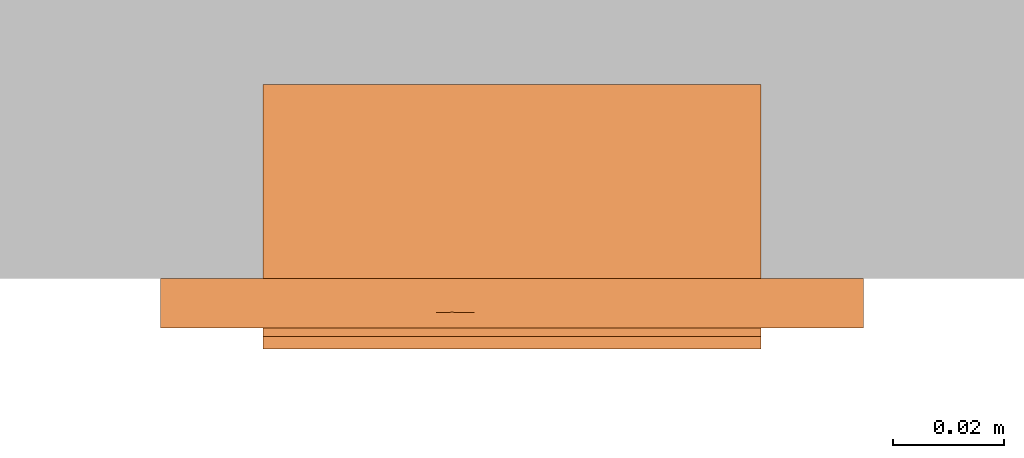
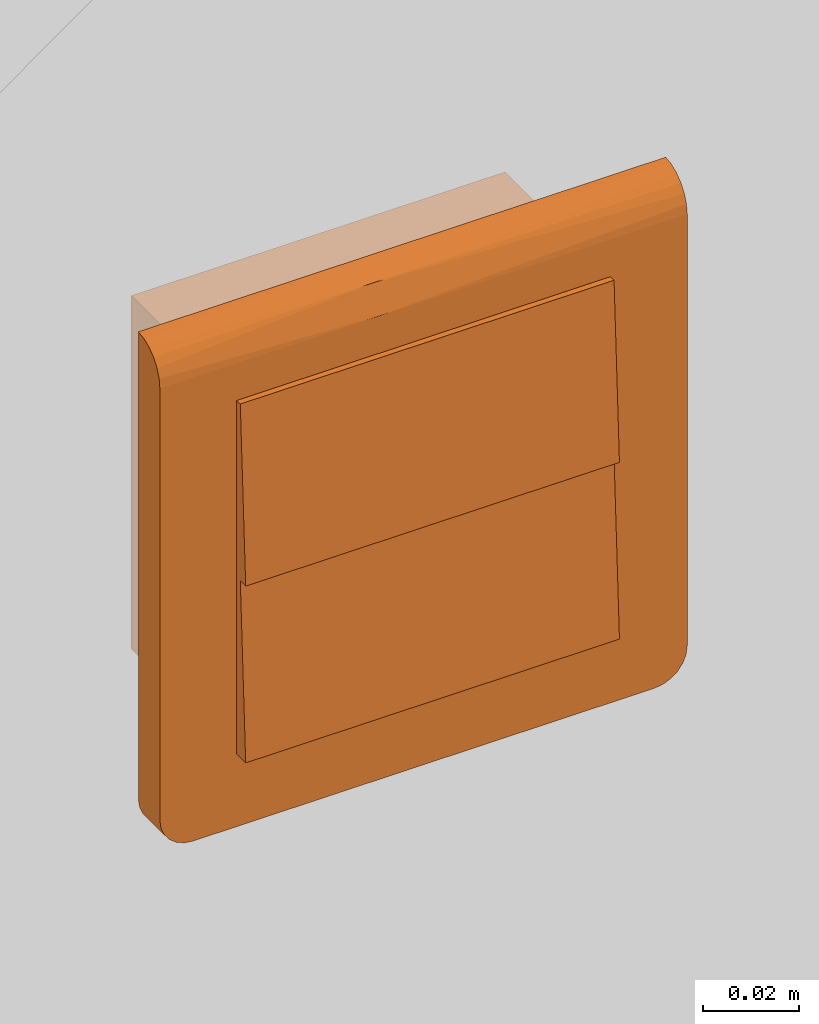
# One storey, part 149 of 197: 1 proxy.
"""IFC2X3 building model written with IfcOpenShell, lengths in metres."""

import ifcopenshell
import ifcopenshell.guid

model = None  # the IFC model being written
_history = None  # IfcOwnerHistory: only IFC2X3 demands one
_inside = {}  # id of a spatial element -> (the spatial element, [elements in it])
_under = {}  # id of a project, library or spatial element -> (it, [spatial elements below it])
_declared = {}  # id of a project -> (the project, [libraries it declares])
_typed = {}  # id of a type object -> (the type object, [elements of that type])
_made_of = {}  # id of a material, layer set ... -> (it, [elements and type objects made of it])


def new_model(schema):
    """Start an empty IFC model of exactly this schema.

    Asked for "IFC4X3", IfcOpenShell would pick the latest addendum, in which some entities
    have other attributes; the version numbers below select the first issue.
    IFC2X3 requires an IfcOwnerHistory on every rooted entity: one is made here for all.
    """
    global model, _history
    if schema == "IFC4X3":
        model = ifcopenshell.file(schema_version=(4, 3, 0, 0))
    else:
        model = ifcopenshell.file(schema=schema)
    _inside.clear()
    _under.clear()
    _declared.clear()
    _typed.clear()
    _made_of.clear()
    _history = None
    if model.schema == "IFC2X3":
        org = make("IfcOrganization", Name="unknown")
        user = make(
            "IfcPersonAndOrganization",
            ThePerson=make("IfcPerson", FamilyName="unknown"),
            TheOrganization=org,
        )
        app = make(
            "IfcApplication",
            ApplicationDeveloper=org,
            Version="unknown",
            ApplicationFullName="unknown",
            ApplicationIdentifier="unknown",
        )
        _history = make(
            "IfcOwnerHistory",
            OwningUser=user,
            OwningApplication=app,
            ChangeAction="ADDED",
            CreationDate=0,
        )
    return model


def make(cls, **values):
    """One entity of the class cls with the attributes given. An attribute that is None is left unset."""
    return model.create_entity(
        cls, **{name: value for name, value in values.items() if value is not None}
    )


def entity(cls, *values):
    """Any entity or typed value of the class cls, its attributes in the order of the schema. None: left unset."""
    e = model.create_entity(cls)
    for i, value in enumerate(values):
        if value is not None:
            e[i] = value
    return e


def rooted(cls, **values):
    """An entity with a GlobalId (a new one), such as an element, a storey or a relation."""
    return make(cls, GlobalId=ifcopenshell.guid.new(), OwnerHistory=_history, **values)


def si_unit(unit_type, name, prefix=None):
    """IfcSIUnit, for example si_unit("LENGTHUNIT", "METRE", prefix="MILLI")."""
    return make("IfcSIUnit", UnitType=unit_type, Prefix=prefix, Name=name)


def converted_unit(unit_type, name, factor, base, dimensions=None, offset=None):
    """IfcConversionBasedUnit, such as the inch: factor (a typed value) times the base unit."""
    return make(
        "IfcConversionBasedUnit"
        if offset is None
        else "IfcConversionBasedUnitWithOffset",
        ConversionOffset=offset,
        Dimensions=None
        if dimensions is None
        else entity("IfcDimensionalExponents", *dimensions),
        UnitType=unit_type,
        Name=name,
        ConversionFactor=make(
            "IfcMeasureWithUnit", ValueComponent=factor, UnitComponent=base
        ),
    )


def assignment(units):
    """IfcUnitAssignment: the units of a project."""
    return None if units is None else make("IfcUnitAssignment", Units=units)


def point(xyz):
    """IfcCartesianPoint."""
    return None if xyz is None else make("IfcCartesianPoint", Coordinates=xyz)


def direction(xyz):
    """IfcDirection."""
    return None if xyz is None else make("IfcDirection", DirectionRatios=xyz)


def frame(location, z_axis=None, x_axis=None):
    """IfcAxis2Placement3D, a coordinate frame: its origin and axes. An axis left out is left unset."""
    return make(
        "IfcAxis2Placement3D",
        Location=point(location),
        Axis=direction(z_axis),
        RefDirection=direction(x_axis),
    )


def origin():
    """The frame at (0, 0, 0) with its axes left unset."""
    return frame((0.0, 0.0, 0.0))


def place(relative_to, where):
    """IfcLocalPlacement: puts the frame where relative to a parent placement (None: the world)."""
    return make(
        "IfcLocalPlacement", PlacementRelTo=relative_to, RelativePlacement=where
    )


def context(
    kind, dimensions, precision=None, world=None, true_north=None, identifier=None
):
    """IfcGeometricRepresentationContext, for example the 3D "Model" context."""
    return make(
        "IfcGeometricRepresentationContext",
        ContextIdentifier=identifier,
        ContextType=kind,
        CoordinateSpaceDimension=dimensions,
        Precision=precision,
        WorldCoordinateSystem=world,
        TrueNorth=true_north,
    )


def subcontext(parent, identifier, kind, view, scale=None):
    """IfcGeometricRepresentationSubContext, for example "Body" below "Model"."""
    return make(
        "IfcGeometricRepresentationSubContext",
        ContextIdentifier=identifier,
        ContextType=kind,
        ParentContext=parent,
        TargetScale=scale,
        TargetView=view,
    )


def project(units=None, contexts=None):
    """IfcProject with its units and contexts."""
    return rooted(
        "IfcProject",
        Name="project",
        RepresentationContexts=contexts,
        UnitsInContext=assignment(units),
    )


def spatial(cls, under=None, at=None, **own):
    """A site, building, storey or space (cls), placed at a placement, below another one or the project."""
    s = rooted(cls, ObjectPlacement=at, **own)
    if under is not None:
        _under.setdefault(under.id(), (under, []))[1].append(s)
    return s


def faces_of(points, faces, orient=None, outer=None):
    """IfcFace entities. A face is a list of loops; a loop is a list of indices into points, from 0.

    orient and outer hold one flag for each loop. By default every Orientation is true, the
    first loop of a face is its IfcFaceOuterBound and the others are IfcFaceBound.
    """
    made = []
    for i, loops in enumerate(faces):
        bounds = []
        for j, loop in enumerate(loops):
            is_outer = j == 0 if outer is None else outer[i][j]
            bounds.append(
                make(
                    "IfcFaceOuterBound" if is_outer else "IfcFaceBound",
                    Bound=make("IfcPolyLoop", Polygon=[points[k] for k in loop]),
                    Orientation=True if orient is None else orient[i][j],
                )
            )
        made.append(make("IfcFace", Bounds=bounds))
    return made


def faceted_brep(points, faces, orient=None, outer=None, voids=None):
    """IfcFacetedBrep: a solid bounded by flat faces; with voids (closed shells), ...WithVoids."""
    shared = [point(p) for p in points]
    hull = make("IfcClosedShell", CfsFaces=faces_of(shared, faces, orient, outer))
    if voids is None:
        return make("IfcFacetedBrep", Outer=hull)
    return make(
        "IfcFacetedBrepWithVoids",
        Outer=hull,
        Voids=[
            make(cls, CfsFaces=faces_of(shared, fs, o, b)) for cls, fs, o, b in voids
        ],
    )


def shape(context_of_items, identifier, shape_type, items):
    """IfcShapeRepresentation: the items that make up one representation, for example the "Body"."""
    return make(
        "IfcShapeRepresentation",
        ContextOfItems=context_of_items,
        RepresentationIdentifier=identifier,
        RepresentationType=shape_type,
        Items=items,
    )


def source(mapping_origin, context_of_items, identifier, shape_type, items):
    """IfcRepresentationMap: a shape defined once, which mapped items show again and again."""
    return make(
        "IfcRepresentationMap",
        MappingOrigin=mapping_origin,
        MappedRepresentation=shape(context_of_items, identifier, shape_type, items),
    )


def transform(
    local_origin,
    x_axis=None,
    y_axis=None,
    z_axis=None,
    scale=None,
    scale2=None,
    scale3=None,
    uniform=True,
):
    """IfcCartesianTransformationOperator3D, or its non-uniform kind. x_axis, y_axis, z_axis: its Axis1, 2, 3."""
    if uniform:
        return make(
            "IfcCartesianTransformationOperator3D",
            Axis1=direction(x_axis),
            Axis2=direction(y_axis),
            LocalOrigin=point(local_origin),
            Scale=scale,
            Axis3=direction(z_axis),
        )
    return make(
        "IfcCartesianTransformationOperator3DnonUniform",
        Axis1=direction(x_axis),
        Axis2=direction(y_axis),
        LocalOrigin=point(local_origin),
        Scale=scale,
        Axis3=direction(z_axis),
        Scale2=scale2,
        Scale3=scale3,
    )


def mapped(mapping_source, mapping_target):
    """IfcMappedItem: shows the shape of a source again, moved by a transform."""
    return make(
        "IfcMappedItem", MappingSource=mapping_source, MappingTarget=mapping_target
    )


def material(Name=None, Category=None):
    """IfcMaterial."""
    return make("IfcMaterial", Name=Name, Category=Category)


def material_list(materials):
    """IfcMaterialList."""
    return make("IfcMaterialList", Materials=materials)


def made_of(thing, what):
    """Note that an element or type object is made of a material, layer set ...; save() writes the relation."""
    if what is not None:
        _made_of.setdefault(what.id(), (what, []))[1].append(thing)
    return thing


def type_object(cls, material=None, **own):
    """A type object (cls), such as IfcWallType, which elements share."""
    return made_of(rooted(cls, **own), material)


def type_shapes(of_type, sources):
    """Give a type object the sources (RepresentationMaps) that its elements show as mapped items."""
    of_type.RepresentationMaps = sources


def element(
    cls,
    number,
    at=None,
    inside=None,
    cuts=None,
    type_object=None,
    material=None,
    context=None,
    identifier="Body",
    shape_type=None,
    held_by="IfcProductDefinitionShape",
    body=None,
    shapes=None,
    **own,
):
    """One element of the class cls, such as IfcWall. Its Tag is "e" and its number.

    at: its placement. inside: the storey or other place that contains it. cuts: it is an
    opening in that element (IfcRelVoidsElement). A single representation is given by context,
    identifier, shape_type and body (its items); several are given by shapes. held_by: the class
    of the entity that holds the representations. save() writes the other relations.
    """
    e = rooted(cls, Tag="e%d" % number, ObjectPlacement=at, **own)
    if body is not None:
        shapes = [shape(context, identifier, shape_type, body)]
    if shapes is not None:
        e.Representation = make(held_by, Representations=shapes)
    if inside is not None:
        _inside.setdefault(inside.id(), (inside, []))[1].append(e)
    if cuts is not None:
        rooted(
            "IfcRelVoidsElement", RelatingBuildingElement=cuts, RelatedOpeningElement=e
        )
    if type_object is not None:
        _typed.setdefault(type_object.id(), (type_object, []))[1].append(e)
    return made_of(e, material)


def aggregate(whole, parts):
    """IfcRelAggregates: a whole, such as a stair, and the parts it consists of."""
    return rooted("IfcRelAggregates", RelatingObject=whole, RelatedObjects=parts)


def save(model, path):
    """Write the relations noted so far, then the file.

    IfcRelAggregates (storeys below a building ...), IfcRelContainedInSpatialStructure (elements
    in a storey), IfcRelDefinesByType, IfcRelAssociatesMaterial and IfcRelDeclares: one each for
    every whole, place, type object, material and project.
    """
    for whole, parts in _under.values():
        aggregate(whole, parts)
    for where, things in _inside.values():
        rooted(
            "IfcRelContainedInSpatialStructure",
            RelatedElements=things,
            RelatingStructure=where,
        )
    for kind, things in _typed.values():
        rooted("IfcRelDefinesByType", RelatedObjects=things, RelatingType=kind)
    for what, things in _made_of.values():
        rooted("IfcRelAssociatesMaterial", RelatedObjects=things, RelatingMaterial=what)
    for by, libraries in _declared.values():
        rooted("IfcRelDeclares", RelatingContext=by, RelatedDefinitions=libraries)
    model.write(path)


model = new_model("IFC2X3")

# Units and contexts
model_context = context("Model", 3, precision=1e-05, world=origin(), true_north=direction((6.123031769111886e-17, 1.0)))
body_context = subcontext(model_context, "Body", "Model", "MODEL_VIEW")
ifc_project = project(units=[si_unit("LENGTHUNIT", "METRE"), converted_unit("PLANEANGLEUNIT", "DEGREE", entity("IfcPlaneAngleMeasure", 0.017453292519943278), si_unit("PLANEANGLEUNIT", "RADIAN"), dimensions=[0, 0, 0, 0, 0, 0, 0]), si_unit("AREAUNIT", "SQUARE_METRE")], contexts=[model_context])

# Site, building, storey
site_placement = place(None, origin())
site = spatial("IfcSite", under=ifc_project, at=site_placement, Name="Default", CompositionType="ELEMENT")
building_placement = place(site_placement, origin())
building = spatial("IfcBuilding", under=site, at=building_placement, CompositionType="ELEMENT")
storey_placement = place(building_placement, origin())
storey = spatial("IfcBuildingStorey", under=building, at=storey_placement, Name="Niveau 0", CompositionType="ELEMENT", Elevation=0.0)

# Proxy
ifc_material_1 = material(Name="<Unnamed>")
ifc_material_2 = material(Name="BETCE-DOIGT-BLANC")
ifc_material_3 = material(Name="BETCE-ENJOLIVEUR-BLANC")
ifc_material_list = material_list([ifc_material_1, ifc_material_2, ifc_material_3])
building_element_proxy_type = type_object("IfcBuildingElementProxyType", Name="Tableau commande 2x4 modules encastré:8 VV", PredefinedType="NOTDEFINED", material=ifc_material_list)
shared_shape = source(origin(), body_context, "Body", "Brep", [
    faceted_brep([(0.04499999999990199, 0.0, 0.0), (0.04499999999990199, 0.03499999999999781, 0.0), (0.022499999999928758, 0.03499999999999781, 0.0), (0.022499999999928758, 0.0, 0.0), (0.04499999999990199, 0.0, -0.045000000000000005), (0.022499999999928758, 0.0, -0.045000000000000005), (0.022499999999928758, 0.03499999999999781, -0.045000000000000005), (0.04499999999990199, 0.03499999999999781, -0.045000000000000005)], [[[0, 1, 2, 3]], [[4, 5, 6, 7]], [[1, 0, 4, 7]], [[2, 1, 7, 6]], [[3, 2, 6, 5]], [[0, 3, 5, 4]]]),
    faceted_brep([(0.04499999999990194, 0.0, 0.045000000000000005), (0.04499999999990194, 0.03499999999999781, 0.045000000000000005), (0.022499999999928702, 0.03499999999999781, 0.045000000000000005), (0.022499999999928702, 0.0, 0.045000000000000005), (0.04499999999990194, 0.0, 0.0), (0.022499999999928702, 0.0, 0.0), (0.022499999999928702, 0.03499999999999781, 0.0), (0.04499999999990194, 0.03499999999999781, 0.0)], [[[0, 1, 2, 3]], [[4, 5, 6, 7]], [[1, 0, 4, 7]], [[2, 1, 7, 6]], [[3, 2, 6, 5]], [[0, 3, 5, 4]]]),
    faceted_brep([(0.022499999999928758, 0.0, 0.0), (0.022499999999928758, 0.03499999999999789, 0.0), (0.0, 0.03499999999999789, 0.0), (0.0, 0.0, 0.0), (0.022499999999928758, 0.0, -0.045000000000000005), (0.0, 0.0, -0.045000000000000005), (0.0, 0.03499999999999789, -0.045000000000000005), (0.022499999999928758, 0.03499999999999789, -0.045000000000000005)], [[[0, 1, 2, 3]], [[4, 5, 6, 7]], [[1, 0, 4, 7]], [[2, 1, 7, 6]], [[3, 2, 6, 5]], [[0, 3, 5, 4]]]),
    faceted_brep([(0.0224999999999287, 0.0, 0.045000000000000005), (0.0224999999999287, 0.03499999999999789, 0.045000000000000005), (0.0, 0.03499999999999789, 0.045000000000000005), (0.0, 0.0, 0.045000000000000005), (0.0224999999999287, 0.0, 0.0), (0.0, 0.0, 0.0), (0.0, 0.03499999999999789, 0.0), (0.0224999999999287, 0.03499999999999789, 0.0)], [[[0, 1, 2, 3]], [[4, 5, 6, 7]], [[1, 0, 4, 7]], [[2, 1, 7, 6]], [[3, 2, 6, 5]], [[0, 3, 5, 4]]]),
    faceted_brep([(0.0, 0.0, 0.0), (0.0, 0.034999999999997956, 0.0), (-0.022500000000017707, 0.034999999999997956, 0.0), (-0.022500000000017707, 0.0, 0.0), (0.0, 0.0, -0.045000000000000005), (-0.022500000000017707, 0.0, -0.045000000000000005), (-0.022500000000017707, 0.034999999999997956, -0.045000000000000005), (0.0, 0.034999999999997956, -0.045000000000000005)], [[[0, 1, 2, 3]], [[4, 5, 6, 7]], [[1, 0, 4, 7]], [[2, 1, 7, 6]], [[3, 2, 6, 5]], [[0, 3, 5, 4]]]),
    faceted_brep([(0.0, 0.0, 0.045000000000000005), (0.0, 0.034999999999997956, 0.045000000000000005), (-0.022500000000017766, 0.034999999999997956, 0.045000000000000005), (-0.022500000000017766, 0.0, 0.045000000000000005), (0.0, 0.0, 0.0), (-0.022500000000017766, 0.0, 0.0), (-0.022500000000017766, 0.034999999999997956, 0.0), (0.0, 0.034999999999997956, 0.0)], [[[0, 1, 2, 3]], [[4, 5, 6, 7]], [[1, 0, 4, 7]], [[2, 1, 7, 6]], [[3, 2, 6, 5]], [[0, 3, 5, 4]]]),
    faceted_brep([(-0.02250000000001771, 0.0, 0.0), (-0.02250000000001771, 0.034999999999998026, 0.0), (-0.044999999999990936, 0.034999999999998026, 0.0), (-0.044999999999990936, 0.0, 0.0), (-0.02250000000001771, 0.0, -0.045000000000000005), (-0.044999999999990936, 0.0, -0.045000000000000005), (-0.044999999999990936, 0.034999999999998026, -0.045000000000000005), (-0.02250000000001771, 0.034999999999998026, -0.045000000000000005)], [[[0, 1, 2, 3]], [[4, 5, 6, 7]], [[1, 0, 4, 7]], [[2, 1, 7, 6]], [[3, 2, 6, 5]], [[0, 3, 5, 4]]]),
    faceted_brep([(-0.022500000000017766, 0.0, 0.045000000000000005), (-0.022500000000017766, 0.034999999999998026, 0.045000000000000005), (-0.044999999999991, 0.034999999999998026, 0.045000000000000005), (-0.044999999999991, 0.0, 0.045000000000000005), (-0.022500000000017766, 0.0, 0.0), (-0.044999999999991, 0.0, 0.0), (-0.044999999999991, 0.034999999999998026, 0.0), (-0.022500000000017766, 0.034999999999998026, 0.0)], [[[0, 1, 2, 3]], [[4, 5, 6, 7]], [[1, 0, 4, 7]], [[2, 1, 7, 6]], [[3, 2, 6, 5]], [[0, 3, 5, 4]]]),
    faceted_brep([(0.022499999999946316, 0.0, -0.045000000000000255), (0.022499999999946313, 0.0, 0.0), (0.04499999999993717, 0.0, 0.0), (0.04499999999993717, 0.0, -0.045000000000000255), (0.022499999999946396, -0.012750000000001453, -0.045000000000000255), (0.022499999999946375, -0.010500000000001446, 0.0), (0.044999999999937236, -0.010500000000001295, 0.0), (0.04499999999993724, -0.012750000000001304, -0.045000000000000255)], [[[0, 1, 2, 3]], [[1, 0, 4, 5]], [[2, 1, 5, 6]], [[3, 2, 6, 7]], [[0, 3, 7, 4]], [[5, 4, 7, 6]]]),
    faceted_brep([(0.0, 0.0, -0.04500000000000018), (0.0, 0.0, 0.0), (0.022499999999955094, 0.0, 0.0), (0.022499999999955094, 0.0, -0.04500000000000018), (0.0, -0.012750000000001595, -0.04500000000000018), (0.0, -0.010500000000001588, 0.0), (0.022499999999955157, -0.01050000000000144, 0.0), (0.022499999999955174, -0.012750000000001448, -0.04500000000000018)], [[[0, 1, 2, 3]], [[1, 0, 4, 5]], [[2, 1, 5, 6]], [[3, 2, 6, 7]], [[0, 3, 7, 4]], [[5, 4, 7, 6]]]),
    faceted_brep([(-0.022500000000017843, 0.0, -0.0450000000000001), (-0.022500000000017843, 0.0, 0.0), (0.0, 0.0, 0.0), (0.0, 0.0, -0.0450000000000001), (-0.02250000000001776, -0.012750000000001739, -0.0450000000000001), (-0.022500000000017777, -0.010500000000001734, 0.0), (0.0, -0.010500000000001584, 0.0), (0.0, -0.012750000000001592, -0.0450000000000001)], [[[0, 1, 2, 3]], [[1, 0, 4, 5]], [[2, 1, 5, 6]], [[3, 2, 6, 7]], [[0, 3, 7, 4]], [[5, 4, 7, 6]]]),
    faceted_brep([(-0.04499999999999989, 0.0, -0.045000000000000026), (-0.04499999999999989, 0.0, 0.0), (-0.022500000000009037, 0.0, 0.0), (-0.022500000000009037, 0.0, -0.045000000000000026), (-0.04499999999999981, -0.012750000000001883, -0.045000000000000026), (-0.04499999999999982, -0.010500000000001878, 0.0), (-0.022500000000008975, -0.01050000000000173, 0.0), (-0.022500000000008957, -0.012750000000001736, -0.045000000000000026)], [[[0, 1, 2, 3]], [[1, 0, 4, 5]], [[2, 1, 5, 6]], [[3, 2, 6, 7]], [[0, 3, 7, 4]], [[5, 4, 7, 6]]]),
    faceted_brep([(0.02249999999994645, -0.010500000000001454, 0.04499999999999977), (0.022499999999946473, -0.012750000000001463, 0.0), (0.04499999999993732, -0.012750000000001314, 0.0), (0.044999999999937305, -0.010500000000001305, 0.04499999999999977), (0.022499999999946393, 0.0, 0.0), (0.02249999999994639, 0.0, 0.04499999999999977), (0.04499999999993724, 0.0, 0.04499999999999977), (0.04499999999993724, 0.0, 0.0)], [[[0, 1, 2, 3]], [[4, 5, 6, 7]], [[5, 4, 1, 0]], [[6, 5, 0, 3]], [[7, 6, 3, 2]], [[4, 7, 2, 1]]]),
    faceted_brep([(0.0, -0.010500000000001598, 0.044999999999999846), (0.0, -0.012750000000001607, 0.0), (0.02249999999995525, -0.012750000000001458, 0.0), (0.022499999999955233, -0.010500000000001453, 0.044999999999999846), (0.0, 0.0, 0.0), (0.0, 0.0, 0.044999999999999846), (0.02249999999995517, 0.0, 0.04499999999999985), (0.02249999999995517, 0.0, 0.0)], [[[0, 1, 2, 3]], [[4, 5, 6, 7]], [[5, 4, 1, 0]], [[6, 5, 0, 3]], [[7, 6, 3, 2]], [[4, 7, 2, 1]]]),
    faceted_brep([(-0.0225000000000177, -0.010500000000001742, 0.04499999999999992), (-0.022500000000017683, -0.01275000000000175, 0.0), (0.0, -0.012750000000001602, 0.0), (0.0, -0.010500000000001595, 0.04499999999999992), (-0.022500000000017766, 0.0, 0.0), (-0.022500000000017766, 0.0, 0.04499999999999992), (0.0, 0.0, 0.04499999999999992), (0.0, 0.0, 0.0)], [[[0, 1, 2, 3]], [[4, 5, 6, 7]], [[5, 4, 1, 0]], [[6, 5, 0, 3]], [[7, 6, 3, 2]], [[4, 7, 2, 1]]]),
    faceted_brep([(-0.044999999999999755, -0.010500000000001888, 0.045), (-0.044999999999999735, -0.012750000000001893, 0.0), (-0.02250000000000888, -0.012750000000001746, 0.0), (-0.0225000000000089, -0.010500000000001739, 0.045), (-0.04499999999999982, 0.0, 0.0), (-0.04499999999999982, 0.0, 0.045), (-0.022500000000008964, 0.0, 0.045000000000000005), (-0.022500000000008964, 0.0, 0.0)], [[[0, 1, 2, 3]], [[4, 5, 6, 7]], [[5, 4, 1, 0]], [[6, 5, 0, 3]], [[7, 6, 3, 2]], [[4, 7, 2, 1]]]),
    faceted_brep([(0.06350000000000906, -0.009000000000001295, -0.055500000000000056), (0.06350000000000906, -0.009000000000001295, 0.05450000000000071), (0.045000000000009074, -0.00900000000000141, -0.045000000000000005), (0.055500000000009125, -0.009000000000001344, -0.06350000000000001), (0.057570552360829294, -0.009000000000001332, -0.06322740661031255), (0.06322740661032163, -0.009000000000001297, -0.05757055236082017), (0.04500000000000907, -0.00900000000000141, 0.045), (-0.044999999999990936, -0.00900000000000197, 0.045000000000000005), (-0.01112442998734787, -0.009000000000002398, 0.054500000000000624), (-0.06349999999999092, -0.009000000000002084, 0.05450000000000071), (-0.044999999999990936, -0.00900000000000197, -0.045000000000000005), (-0.06349999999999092, -0.009000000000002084, -0.05550000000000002), (-0.055499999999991, -0.009000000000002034, -0.06350000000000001), (-0.0575705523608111, -0.009000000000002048, -0.06322740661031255), (-0.06322740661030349, -0.009000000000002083, -0.05757055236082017), (-0.05949999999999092, -0.00900000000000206, -0.062428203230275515), (-0.062428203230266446, -0.009000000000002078, -0.05950000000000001), (-0.06115685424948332, -0.00900000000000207, -0.06115685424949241), (0.059500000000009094, -0.00900000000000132, -0.062428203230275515), (0.062428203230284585, -0.009000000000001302, -0.05949999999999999), (0.06115685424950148, -0.009000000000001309, -0.061156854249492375), (-0.063499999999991, 0.0, -0.05550000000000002), (-0.063499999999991, 0.0, 0.06350000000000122), (-0.044999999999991, 0.0, 0.045000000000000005), (-0.044999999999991, 0.0, -0.045000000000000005), (-0.055499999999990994, 0.0, -0.06350000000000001), (-0.06322740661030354, 0.0, -0.05757055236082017), (0.045000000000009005, 0.0, 0.045000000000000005), (0.011124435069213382, 0.0, 0.06350000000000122), (0.06350000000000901, 0.0, 0.0635), (0.06350000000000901, 0.0, -0.05550000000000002), (0.045000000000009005, 0.0, -0.045000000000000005), (0.05550000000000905, 0.0, -0.06350000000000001), (0.06322740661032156, 0.0, -0.05757055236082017), (0.057570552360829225, 0.0, -0.06322740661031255), (0.06242820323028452, 0.0, -0.05949999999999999), (0.05950000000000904, 0.0, -0.062428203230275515), (0.06115685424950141, 0.0, -0.061156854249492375), (-0.05757055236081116, 0.0, -0.06322740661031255), (-0.0624282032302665, 0.0, -0.05950000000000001), (-0.059499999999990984, 0.0, -0.062428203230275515), (-0.06115685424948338, 0.0, -0.06115685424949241), (0.06350000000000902, -0.00232937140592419, 0.06319333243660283), (0.06350000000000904, -0.004500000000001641, 0.06229422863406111), (0.06350000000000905, -0.006363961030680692, 0.06086396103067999), (0.06350000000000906, -0.007794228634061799, 0.05900000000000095), (0.06350000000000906, -0.008693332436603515, 0.056829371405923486), (-0.06349999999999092, -0.00869333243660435, 0.0568293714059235), (-0.06349999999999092, -0.007794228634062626, 0.059000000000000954), (-0.06349999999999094, -0.006363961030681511, 0.06086396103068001), (-0.06349999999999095, -0.004500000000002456, 0.062294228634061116), (-0.06349999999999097, -0.002329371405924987, 0.06319333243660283), (-0.010857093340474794, -0.006120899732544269, 0.06109807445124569)], [[[0, 1, 2]], [[3, 0, 2]], [[0, 3, 4]], [[5, 0, 4]], [[2, 1, 6]], [[1, 7, 6]], [[7, 1, 8]], [[7, 8, 9]], [[10, 7, 9]], [[11, 10, 9]], [[12, 10, 11]], [[12, 11, 13]], [[13, 11, 14]], [[15, 13, 14]], [[16, 15, 14]], [[15, 16, 17]], [[10, 12, 3]], [[2, 10, 3]], [[5, 4, 18]], [[5, 18, 19]], [[20, 19, 18]], [[21, 22, 23]], [[24, 21, 23]], [[25, 21, 24]], [[26, 21, 25]], [[22, 27, 23]], [[27, 22, 28]], [[27, 28, 29]], [[30, 27, 29]], [[31, 27, 30]], [[32, 31, 30]], [[32, 30, 33]], [[32, 33, 34]], [[33, 35, 34]], [[35, 36, 34]], [[36, 35, 37]], [[31, 32, 25]], [[26, 25, 38]], [[24, 31, 25]], [[39, 26, 38]], [[39, 38, 40]], [[41, 39, 40]], [[1, 0, 30, 29, 42, 43, 44, 45, 46]], [[33, 30, 0, 5]], [[35, 33, 5, 19]], [[37, 35, 19, 20]], [[36, 37, 20, 18]], [[34, 36, 18, 4]], [[32, 34, 4, 3]], [[25, 32, 3, 12]], [[38, 25, 12, 13]], [[40, 38, 13, 15]], [[41, 40, 15, 17]], [[39, 41, 17, 16]], [[26, 39, 16, 14]], [[21, 26, 14, 11]], [[22, 21, 11, 9, 47, 48, 49, 50, 51]], [[24, 23, 7, 10]], [[31, 24, 10, 2]], [[27, 31, 2, 6]], [[23, 27, 6, 7]], [[52, 8, 45]], [[47, 9, 8]], [[1, 46, 8]], [[44, 52, 45]], [[46, 45, 8]], [[50, 52, 51]], [[48, 47, 8]], [[28, 52, 43]], [[48, 52, 49]], [[42, 29, 28]], [[28, 22, 51]], [[48, 8, 52]], [[28, 43, 42]], [[44, 43, 52]], [[52, 50, 49]], [[52, 28, 51]]]),
])
type_shapes(building_element_proxy_type, [shared_shape])
proxy_placement = place(storey_placement, frame((-363.9867796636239, 122.781355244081, 1.1)))
element("IfcBuildingElementProxy", 1, at=proxy_placement, inside=storey, type_object=building_element_proxy_type, material=ifc_material_list, Name="Tableau commande 2x4 modules encastré:8 VV", ObjectType="Tableau commande 2x4 modules encastré:8 VV", context=body_context, shape_type="MappedRepresentation", body=[
    mapped(shared_shape, transform((0.0, 0.0, 0.0), scale=1.0)),
])

save(model, "model.ifc")
